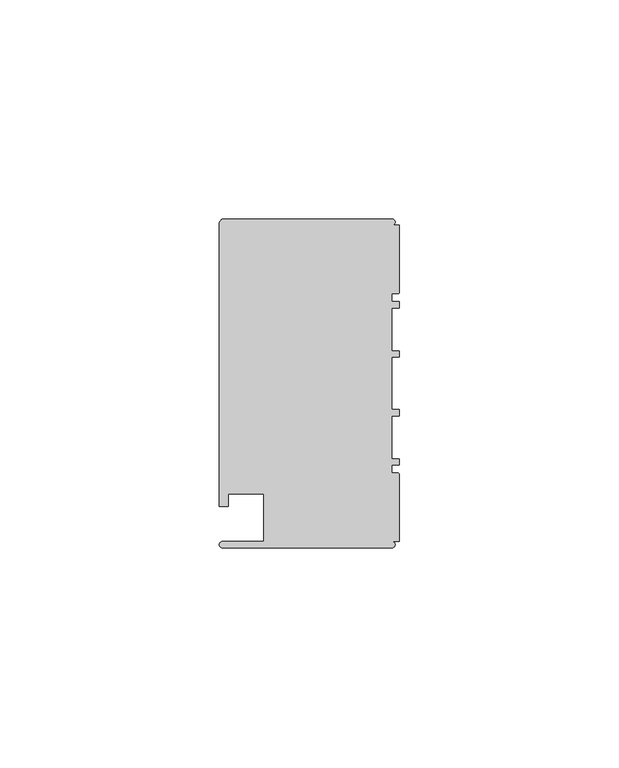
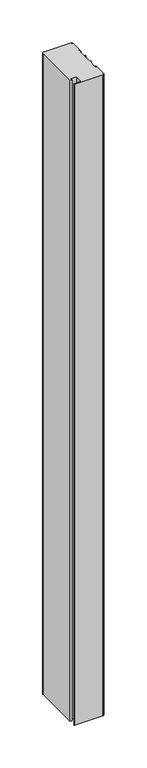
"""IFC4 building model written with IfcOpenShell, lengths in millimetres: member geometry, Прямоугольный импост : 1-AMG-1-Профиль 40Х75 Верх П."""

import ifcopenshell
import ifcopenshell.guid

model = None  # the IFC model being written
_history = None  # IfcOwnerHistory: only IFC2X3 demands one
_inside = {}  # id of a spatial element -> (the spatial element, [elements in it])
_under = {}  # id of a project, library or spatial element -> (it, [spatial elements below it])
_declared = {}  # id of a project -> (the project, [libraries it declares])
_typed = {}  # id of a type object -> (the type object, [elements of that type])
_made_of = {}  # id of a material, layer set ... -> (it, [elements and type objects made of it])


def new_model(schema):
    """Start an empty IFC model of exactly this schema.

    Asked for "IFC4X3", IfcOpenShell would pick the latest addendum, in which some entities
    have other attributes; the version numbers below select the first issue.
    IFC2X3 requires an IfcOwnerHistory on every rooted entity: one is made here for all.
    """
    global model, _history
    if schema == "IFC4X3":
        model = ifcopenshell.file(schema_version=(4, 3, 0, 0))
    else:
        model = ifcopenshell.file(schema=schema)
    _inside.clear()
    _under.clear()
    _declared.clear()
    _typed.clear()
    _made_of.clear()
    _history = None
    if model.schema == "IFC2X3":
        org = make("IfcOrganization", Name="unknown")
        user = make(
            "IfcPersonAndOrganization",
            ThePerson=make("IfcPerson", FamilyName="unknown"),
            TheOrganization=org,
        )
        app = make(
            "IfcApplication",
            ApplicationDeveloper=org,
            Version="unknown",
            ApplicationFullName="unknown",
            ApplicationIdentifier="unknown",
        )
        _history = make(
            "IfcOwnerHistory",
            OwningUser=user,
            OwningApplication=app,
            ChangeAction="ADDED",
            CreationDate=0,
        )
    return model


def make(cls, **values):
    """One entity of the class cls with the attributes given. An attribute that is None is left unset."""
    return model.create_entity(
        cls, **{name: value for name, value in values.items() if value is not None}
    )


def rooted(cls, **values):
    """An entity with a GlobalId (a new one), such as an element, a storey or a relation."""
    return make(cls, GlobalId=ifcopenshell.guid.new(), OwnerHistory=_history, **values)


def si_unit(unit_type, name, prefix=None):
    """IfcSIUnit, for example si_unit("LENGTHUNIT", "METRE", prefix="MILLI")."""
    return make("IfcSIUnit", UnitType=unit_type, Prefix=prefix, Name=name)


def assignment(units):
    """IfcUnitAssignment: the units of a project."""
    return None if units is None else make("IfcUnitAssignment", Units=units)


def point(xyz):
    """IfcCartesianPoint."""
    return None if xyz is None else make("IfcCartesianPoint", Coordinates=xyz)


def direction(xyz):
    """IfcDirection."""
    return None if xyz is None else make("IfcDirection", DirectionRatios=xyz)


def frame(location, z_axis=None, x_axis=None):
    """IfcAxis2Placement3D, a coordinate frame: its origin and axes. An axis left out is left unset."""
    return make(
        "IfcAxis2Placement3D",
        Location=point(location),
        Axis=direction(z_axis),
        RefDirection=direction(x_axis),
    )


def frame_2d(location, x_axis=None):
    """IfcAxis2Placement2D, a coordinate frame in the plane: its origin and x axis."""
    return make(
        "IfcAxis2Placement2D", Location=point(location), RefDirection=direction(x_axis)
    )


def origin():
    """The frame at (0, 0, 0) with its axes left unset."""
    return frame((0.0, 0.0, 0.0))


def place(relative_to, where):
    """IfcLocalPlacement: puts the frame where relative to a parent placement (None: the world)."""
    return make(
        "IfcLocalPlacement", PlacementRelTo=relative_to, RelativePlacement=where
    )


def context(
    kind, dimensions, precision=None, world=None, true_north=None, identifier=None
):
    """IfcGeometricRepresentationContext, for example the 3D "Model" context."""
    return make(
        "IfcGeometricRepresentationContext",
        ContextIdentifier=identifier,
        ContextType=kind,
        CoordinateSpaceDimension=dimensions,
        Precision=precision,
        WorldCoordinateSystem=world,
        TrueNorth=true_north,
    )


def project(units=None, contexts=None):
    """IfcProject with its units and contexts."""
    return rooted(
        "IfcProject",
        Name="project",
        RepresentationContexts=contexts,
        UnitsInContext=assignment(units),
    )


def spatial(cls, under=None, at=None, **own):
    """A site, building, storey or space (cls), placed at a placement, below another one or the project."""
    s = rooted(cls, ObjectPlacement=at, **own)
    if under is not None:
        _under.setdefault(under.id(), (under, []))[1].append(s)
    return s


def polyline(points):
    """IfcPolyline through the points."""
    return make("IfcPolyline", Points=[point(p) for p in points])


def circle_curve(where, radius):
    """IfcCircle in the frame where."""
    return make("IfcCircle", Position=where, Radius=radius)


def trimmed(basis, trim1, trim2, sense, master):
    """IfcTrimmedCurve: the piece of a basis curve between two trims."""
    return make(
        "IfcTrimmedCurve",
        BasisCurve=basis,
        Trim1=trim1,
        Trim2=trim2,
        SenseAgreement=sense,
        MasterRepresentation=master,
    )


def segment(curve, same_sense, transition):
    """IfcCompositeCurveSegment."""
    return make(
        "IfcCompositeCurveSegment",
        Transition=transition,
        SameSense=same_sense,
        ParentCurve=curve,
    )


def composite_curve(segments, self_intersect=None):
    """IfcCompositeCurve: segments joined end to end."""
    return make("IfcCompositeCurve", Segments=segments, SelfIntersect=self_intersect)


def outline(outer, holes=None, kind="AREA"):
    """IfcArbitraryClosedProfileDef: a profile drawn as a closed curve; with holes, ...WithVoids."""
    if holes is None:
        return make("IfcArbitraryClosedProfileDef", ProfileType=kind, OuterCurve=outer)
    return make(
        "IfcArbitraryProfileDefWithVoids",
        ProfileType=kind,
        OuterCurve=outer,
        InnerCurves=holes,
    )


def extrude(swept, where, along, depth):
    """IfcExtrudedAreaSolid: the profile swept, set in the frame where, extruded along a direction by depth."""
    return make(
        "IfcExtrudedAreaSolid",
        SweptArea=swept,
        Position=where,
        ExtrudedDirection=direction(along),
        Depth=depth,
    )


def shape(context_of_items, identifier, shape_type, items):
    """IfcShapeRepresentation: the items that make up one representation, for example the "Body"."""
    return make(
        "IfcShapeRepresentation",
        ContextOfItems=context_of_items,
        RepresentationIdentifier=identifier,
        RepresentationType=shape_type,
        Items=items,
    )


def source(mapping_origin, context_of_items, identifier, shape_type, items):
    """IfcRepresentationMap: a shape defined once, which mapped items show again and again."""
    return make(
        "IfcRepresentationMap",
        MappingOrigin=mapping_origin,
        MappedRepresentation=shape(context_of_items, identifier, shape_type, items),
    )


def transform(
    local_origin,
    x_axis=None,
    y_axis=None,
    z_axis=None,
    scale=None,
    scale2=None,
    scale3=None,
    uniform=True,
):
    """IfcCartesianTransformationOperator3D, or its non-uniform kind. x_axis, y_axis, z_axis: its Axis1, 2, 3."""
    if uniform:
        return make(
            "IfcCartesianTransformationOperator3D",
            Axis1=direction(x_axis),
            Axis2=direction(y_axis),
            LocalOrigin=point(local_origin),
            Scale=scale,
            Axis3=direction(z_axis),
        )
    return make(
        "IfcCartesianTransformationOperator3DnonUniform",
        Axis1=direction(x_axis),
        Axis2=direction(y_axis),
        LocalOrigin=point(local_origin),
        Scale=scale,
        Axis3=direction(z_axis),
        Scale2=scale2,
        Scale3=scale3,
    )


def mapped(mapping_source, mapping_target):
    """IfcMappedItem: shows the shape of a source again, moved by a transform."""
    return make(
        "IfcMappedItem", MappingSource=mapping_source, MappingTarget=mapping_target
    )


def made_of(thing, what):
    """Note that an element or type object is made of a material, layer set ...; save() writes the relation."""
    if what is not None:
        _made_of.setdefault(what.id(), (what, []))[1].append(thing)
    return thing


def element(
    cls,
    number,
    at=None,
    inside=None,
    cuts=None,
    type_object=None,
    material=None,
    context=None,
    identifier="Body",
    shape_type=None,
    held_by="IfcProductDefinitionShape",
    body=None,
    shapes=None,
    **own,
):
    """One element of the class cls, such as IfcWall. Its Tag is "e" and its number.

    at: its placement. inside: the storey or other place that contains it. cuts: it is an
    opening in that element (IfcRelVoidsElement). A single representation is given by context,
    identifier, shape_type and body (its items); several are given by shapes. held_by: the class
    of the entity that holds the representations. save() writes the other relations.
    """
    e = rooted(cls, Tag="e%d" % number, ObjectPlacement=at, **own)
    if body is not None:
        shapes = [shape(context, identifier, shape_type, body)]
    if shapes is not None:
        e.Representation = make(held_by, Representations=shapes)
    if inside is not None:
        _inside.setdefault(inside.id(), (inside, []))[1].append(e)
    if cuts is not None:
        rooted(
            "IfcRelVoidsElement", RelatingBuildingElement=cuts, RelatedOpeningElement=e
        )
    if type_object is not None:
        _typed.setdefault(type_object.id(), (type_object, []))[1].append(e)
    return made_of(e, material)


def aggregate(whole, parts):
    """IfcRelAggregates: a whole, such as a stair, and the parts it consists of."""
    return rooted("IfcRelAggregates", RelatingObject=whole, RelatedObjects=parts)


def save(model, path):
    """Write the relations noted so far, then the file.

    IfcRelAggregates (storeys below a building ...), IfcRelContainedInSpatialStructure (elements
    in a storey), IfcRelDefinesByType, IfcRelAssociatesMaterial and IfcRelDeclares: one each for
    every whole, place, type object, material and project.
    """
    for whole, parts in _under.values():
        aggregate(whole, parts)
    for where, things in _inside.values():
        rooted(
            "IfcRelContainedInSpatialStructure",
            RelatedElements=things,
            RelatingStructure=where,
        )
    for kind, things in _typed.values():
        rooted("IfcRelDefinesByType", RelatedObjects=things, RelatingType=kind)
    for what, things in _made_of.values():
        rooted("IfcRelAssociatesMaterial", RelatedObjects=things, RelatingMaterial=what)
    for by, libraries in _declared.values():
        rooted("IfcRelDeclares", RelatingContext=by, RelatedDefinitions=libraries)
    model.write(path)


def member_a947193e(model_context):
    return source(origin(), model_context, "Body", "SweptSolid", [
        extrude(outline(composite_curve([segment(polyline([(-1.7, -37.5), (-40.4, -37.5)]), True, "CONTINUOUS"), segment(trimmed(circle_curve(frame_2d((-40.4, -36.8)), 0.7), [point((-40.4, -37.5))], [point((-40.4, -36.1))], False, "CARTESIAN"), True, "CONTINUOUS"), segment(polyline([(-40.4, -36.1), (-31.0, -36.1), (-31.0, -25.25), (-39.0, -25.25), (-39.0, -28.1), (-41.1, -28.1), (-41.1, 36.1)]), True, "CONTINUOUS"), segment(trimmed(circle_curve(frame_2d((-39.7541527, 36.3020763)), 1.3609334), [point((-41.1, 36.1))], [point((-40.4, 37.5))], False, "CARTESIAN"), True, "CONTINUOUS"), segment(polyline([(-40.4, 37.5), (-1.7, 37.5)]), True, "CONTINUOUS"), segment(trimmed(circle_curve(frame_2d((-1.7, 36.8)), 0.7), [point((-1.7, 37.5))], [point((-1.7, 36.1))], False, "CARTESIAN"), True, "CONTINUOUS"), segment(polyline([(-1.7, 36.1), (0.0, 36.1), (0.0, 20.95)]), True, "CONTINUOUS"), segment(trimmed(circle_curve(frame_2d((-0.5, 20.95)), 0.5), [point((0.0, 20.95))], [point((-0.5, 20.45))], False, "CARTESIAN"), True, "CONTINUOUS"), segment(polyline([(-0.5, 20.45), (-1.8, 20.45), (-1.8, 18.65), (0.0, 18.65), (0.0, 17.25), (-1.8, 17.25), (-1.8, 7.4), (0.0, 7.4), (0.0, 6.0), (-1.8, 6.0), (-1.8, -6.0), (0.0, -6.0), (0.0, -7.4), (-1.8, -7.4), (-1.8, -17.25), (0.0, -17.25), (0.0, -18.65), (-1.8, -18.65), (-1.8, -20.45), (-0.5, -20.45)]), True, "CONTINUOUS"), segment(trimmed(circle_curve(frame_2d((-0.5, -20.95)), 0.5), [point((-0.5, -20.45))], [point((0.0, -20.95))], False, "CARTESIAN"), True, "CONTINUOUS"), segment(polyline([(0.0, -20.95), (0.0, -36.1), (-1.7, -36.1)]), True, "CONTINUOUS"), segment(trimmed(circle_curve(frame_2d((-1.7, -36.8)), 0.7), [point((-1.7, -36.1))], [point((-1.7, -37.5))], False, "CARTESIAN"), True, "CONTINUOUS")], self_intersect=False)), frame((0.0, 0.0, -920.0), z_axis=(0.0, 0.0, 1.0), x_axis=(1.0, 0.0, 0.0)), (0.0, 0.0, 1.0), 920.0),
    ])


if __name__ == "__main__":
    model = new_model("IFC4")
    model_context = context("Model", 3, world=origin())
    ifc_project = project(units=[si_unit("LENGTHUNIT", "METRE", prefix="MILLI")], contexts=[model_context])
    site = spatial("IfcSite", under=ifc_project)
    building = spatial("IfcBuilding", under=site)
    placement = place(None, origin())
    member_shape = member_a947193e(model_context)
    element("IfcMember", 1, ObjectType="Прямоугольный импост : 1-AMG-1-Профиль 40Х75 Верх П", at=placement, inside=building, context=model_context, shape_type="MappedRepresentation", body=[
        mapped(member_shape, transform((0.0, 0.0, 0.0), x_axis=(1.0, 0.0, 0.0), y_axis=(0.0, 1.0, 0.0), z_axis=(0.0, 0.0, 1.0))),
    ])
    save(model, "model.ifc")
